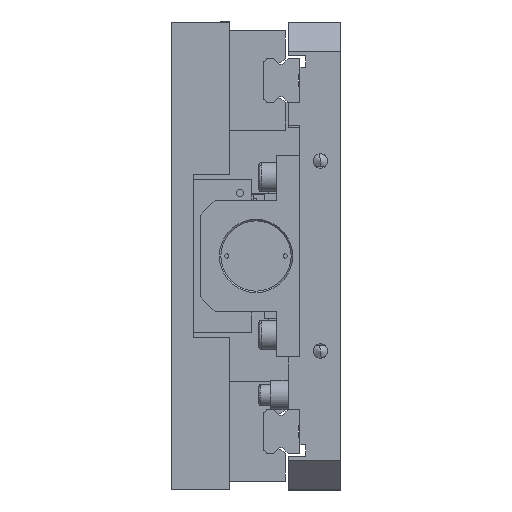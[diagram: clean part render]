
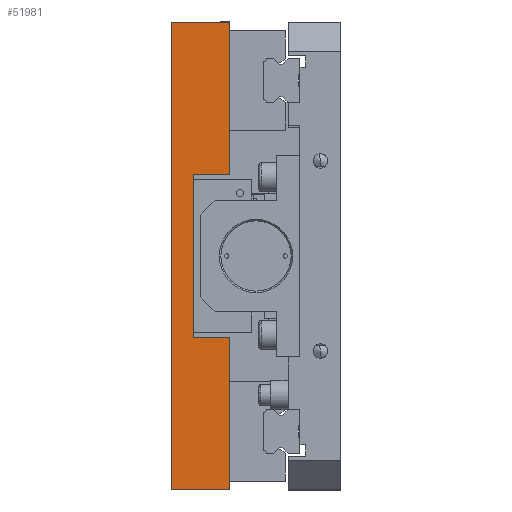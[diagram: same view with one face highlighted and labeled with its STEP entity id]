
A CAD part, left-side view. The second image highlights one B-rep face of the part: STEP entity #51981.
In plain terms, the highlighted planar face has unit normal (-1, 0, 0).
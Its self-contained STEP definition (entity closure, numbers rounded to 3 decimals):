
#643 = EDGE_CURVE ( 'NONE', #34977, #34974, #16257, .T. ) ;
#683 = EDGE_CURVE ( 'NONE', #34972, #34974, #16359, .T. ) ;
#697 = EDGE_CURVE ( 'NONE', #34967, #34969, #16301, .T. ) ;
#698 = EDGE_CURVE ( 'NONE', #34965, #34967, #16295, .T. ) ;
#700 = EDGE_CURVE ( 'NONE', #34971, #34965, #16304, .T. ) ;
#701 = EDGE_CURVE ( 'NONE', #34972, #34970, #16354, .T. ) ;
#702 = EDGE_CURVE ( 'NONE', #34970, #34971, #16305, .T. ) ;
#703 = EDGE_CURVE ( 'NONE', #34969, #34977, #16284, .T. ) ;
#6093 = FACE_OUTER_BOUND ( 'NONE', #36163, .T. ) ;
#7755 = CARTESIAN_POINT ( 'NONE',  ( -48.5, 58., -80. ) ) ;
#7756 = PLANE ( 'NONE',  #14284 ) ;
#7761 = DIRECTION ( 'NONE',  ( 1., 0., 0. ) ) ;
#7762 = DIRECTION ( 'NONE',  ( 0., 0., -1. ) ) ;
#13308 = DIRECTION ( 'NONE',  ( 0., 1., 0. ) ) ;
#13314 = DIRECTION ( 'NONE',  ( 0., 1., 0. ) ) ;
#13315 = CARTESIAN_POINT ( 'NONE',  ( -48.5, 58., 28. ) ) ;
#13318 = DIRECTION ( 'NONE',  ( 0., 0., -1. ) ) ;
#13320 = CARTESIAN_POINT ( 'NONE',  ( -48.5, 38., -80. ) ) ;
#13323 = DIRECTION ( 'NONE',  ( 0., 0., -1. ) ) ;
#13325 = CARTESIAN_POINT ( 'NONE',  ( -48.5, 58., -80. ) ) ;
#13328 = CARTESIAN_POINT ( 'NONE',  ( -48.5, 50.5, -80. ) ) ;
#13329 = DIRECTION ( 'NONE',  ( 0., -1., 0. ) ) ;
#13333 = DIRECTION ( 'NONE',  ( 0., 0., -1. ) ) ;
#13336 = CARTESIAN_POINT ( 'NONE',  ( -48.5, 58., -28. ) ) ;
#13342 = CARTESIAN_POINT ( 'NONE',  ( -48.5, 38., -80. ) ) ;
#13414 = DIRECTION ( 'NONE',  ( 0., 1., 0. ) ) ;
#13415 = CARTESIAN_POINT ( 'NONE',  ( -48.5, 58., 80. ) ) ;
#13674 = DIRECTION ( 'NONE',  ( 0., 0., 1. ) ) ;
#13703 = CARTESIAN_POINT ( 'NONE',  ( -48.5, 58., 80. ) ) ;
#14284 = AXIS2_PLACEMENT_3D ( 'NONE', #7755, #7761, #7762 ) ;
#16257 = LINE ( 'NONE', #13703, #16361 ) ;
#16278 = VECTOR ( 'NONE', #13308, 1000. ) ;
#16284 = LINE ( 'NONE', #13325, #16278 ) ;
#16295 = LINE ( 'NONE', #13336, #16313 ) ;
#16298 = VECTOR ( 'NONE', #13333, 1000. ) ;
#16301 = LINE ( 'NONE', #13342, #16298 ) ;
#16304 = LINE ( 'NONE', #13328, #16350 ) ;
#16305 = LINE ( 'NONE', #13315, #16307 ) ;
#16307 = VECTOR ( 'NONE', #13314, 1000. ) ;
#16313 = VECTOR ( 'NONE', #13329, 1000. ) ;
#16340 = VECTOR ( 'NONE', #13318, 1000. ) ;
#16350 = VECTOR ( 'NONE', #13323, 1000. ) ;
#16354 = LINE ( 'NONE', #13320, #16340 ) ;
#16359 = LINE ( 'NONE', #13415, #16473 ) ;
#16361 = VECTOR ( 'NONE', #13674, 1000. ) ;
#16473 = VECTOR ( 'NONE', #13414, 1000. ) ;
#30042 = ORIENTED_EDGE ( 'NONE', *, *, #702, .F. ) ;
#30043 = ORIENTED_EDGE ( 'NONE', *, *, #701, .F. ) ;
#30044 = ORIENTED_EDGE ( 'NONE', *, *, #683, .T. ) ;
#30045 = ORIENTED_EDGE ( 'NONE', *, *, #643, .F. ) ;
#30046 = ORIENTED_EDGE ( 'NONE', *, *, #703, .F. ) ;
#30047 = ORIENTED_EDGE ( 'NONE', *, *, #697, .F. ) ;
#30048 = ORIENTED_EDGE ( 'NONE', *, *, #698, .F. ) ;
#30049 = ORIENTED_EDGE ( 'NONE', *, *, #700, .F. ) ;
#34965 = VERTEX_POINT ( 'NONE', #44667 ) ;
#34967 = VERTEX_POINT ( 'NONE', #44669 ) ;
#34969 = VERTEX_POINT ( 'NONE', #44671 ) ;
#34970 = VERTEX_POINT ( 'NONE', #44672 ) ;
#34971 = VERTEX_POINT ( 'NONE', #44673 ) ;
#34972 = VERTEX_POINT ( 'NONE', #44674 ) ;
#34974 = VERTEX_POINT ( 'NONE', #44676 ) ;
#34977 = VERTEX_POINT ( 'NONE', #44679 ) ;
#36163 = EDGE_LOOP ( 'NONE', ( #30042, #30043, #30044, #30045, #30046, #30047, #30048, #30049 ) ) ;
#44667 = CARTESIAN_POINT ( 'NONE',  ( -48.5, 50.5, -28. ) ) ;
#44669 = CARTESIAN_POINT ( 'NONE',  ( -48.5, 38., -28. ) ) ;
#44671 = CARTESIAN_POINT ( 'NONE',  ( -48.5, 38., -80. ) ) ;
#44672 = CARTESIAN_POINT ( 'NONE',  ( -48.5, 38., 28. ) ) ;
#44673 = CARTESIAN_POINT ( 'NONE',  ( -48.5, 50.5, 28. ) ) ;
#44674 = CARTESIAN_POINT ( 'NONE',  ( -48.5, 38., 80. ) ) ;
#44676 = CARTESIAN_POINT ( 'NONE',  ( -48.5, 58., 80. ) ) ;
#44679 = CARTESIAN_POINT ( 'NONE',  ( -48.5, 58., -80. ) ) ;
#51981 = ADVANCED_FACE ( 'NONE', ( #6093 ), #7756, .F. ) ;
